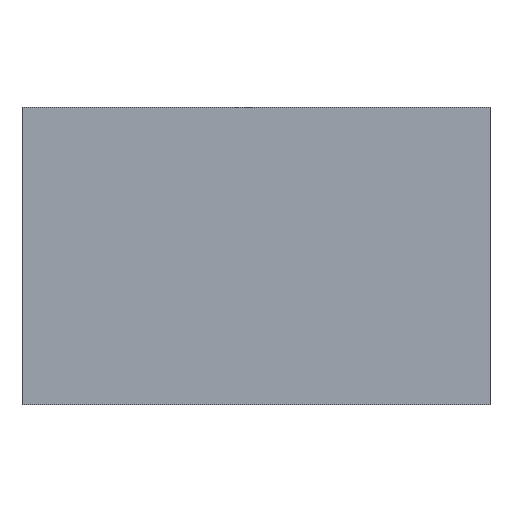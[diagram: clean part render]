
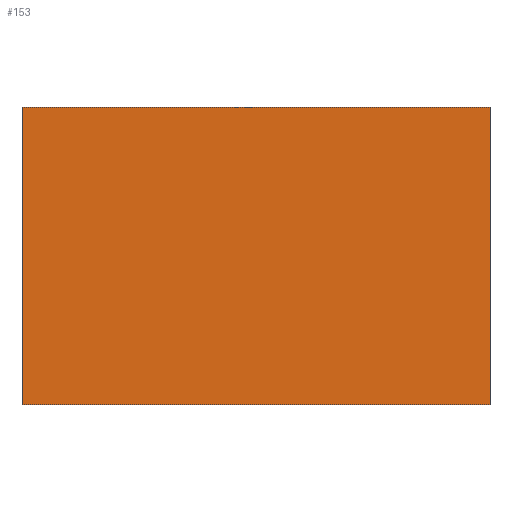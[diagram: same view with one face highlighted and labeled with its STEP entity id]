
A CAD part, top view. The second image highlights one B-rep face of the part: STEP entity #153.
In plain terms, the highlighted planar face has unit normal (0, 0, 1).
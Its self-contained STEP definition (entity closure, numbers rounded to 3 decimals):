
#24 = VERTEX_POINT('',#25);
#25 = CARTESIAN_POINT('',(-40.,85.65,20.));
#40 = VERTEX_POINT('',#41);
#41 = CARTESIAN_POINT('',(-40.,98.35,20.));
#47 = EDGE_CURVE('',#24,#40,#48,.T.);
#48 = LINE('',#49,#50);
#49 = CARTESIAN_POINT('',(-40.,85.65,20.));
#50 = VECTOR('',#51,1.);
#51 = DIRECTION('',(0.,1.,0.));
#64 = VERTEX_POINT('',#65);
#65 = CARTESIAN_POINT('',(-20.,85.65,20.));
#80 = VERTEX_POINT('',#81);
#81 = CARTESIAN_POINT('',(-20.,98.35,20.));
#87 = EDGE_CURVE('',#64,#80,#88,.T.);
#88 = LINE('',#89,#90);
#89 = CARTESIAN_POINT('',(-20.,85.65,20.));
#90 = VECTOR('',#91,1.);
#91 = DIRECTION('',(0.,1.,0.));
#108 = EDGE_CURVE('',#24,#64,#109,.T.);
#109 = LINE('',#110,#111);
#110 = CARTESIAN_POINT('',(-40.,85.65,20.));
#111 = VECTOR('',#112,1.);
#112 = DIRECTION('',(1.,0.,0.));
#130 = EDGE_CURVE('',#40,#80,#131,.T.);
#131 = LINE('',#132,#133);
#132 = CARTESIAN_POINT('',(-40.,98.35,20.));
#133 = VECTOR('',#134,1.);
#134 = DIRECTION('',(1.,0.,0.));
#153 = ADVANCED_FACE('',(#154),#160,.T.);
#154 = FACE_BOUND('',#155,.T.);
#155 = EDGE_LOOP('',(#156,#157,#158,#159));
#156 = ORIENTED_EDGE('',*,*,#47,.F.);
#157 = ORIENTED_EDGE('',*,*,#108,.T.);
#158 = ORIENTED_EDGE('',*,*,#87,.T.);
#159 = ORIENTED_EDGE('',*,*,#130,.F.);
#160 = PLANE('',#161);
#161 = AXIS2_PLACEMENT_3D('',#162,#163,#164);
#162 = CARTESIAN_POINT('',(-40.,85.65,20.));
#163 = DIRECTION('',(0.,0.,1.));
#164 = DIRECTION('',(1.,0.,0.));
